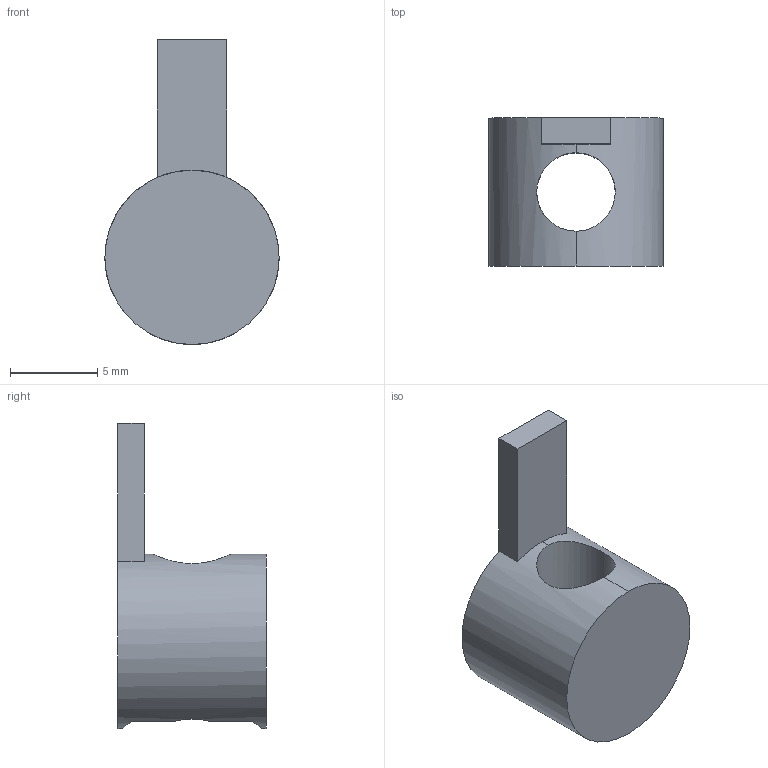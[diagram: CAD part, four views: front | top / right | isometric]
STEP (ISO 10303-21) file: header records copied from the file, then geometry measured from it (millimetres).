
FILE_DESCRIPTION (( 'STEP AP203' ), '1' );
FILE_NAME ('CP-UJT2020.STEP', '2018-03-15T13:01:06', ( '' ), ( '' ), 'SwSTEP 2.0', 'SolidWorks 2013', '' );
FILE_SCHEMA (( 'CONFIG_CONTROL_DESIGN' ));
Length unit declared in the file: millimetre
Products named in the file (1): CP-UJT2020
Bounding box: 10 x 8.5 x 17.5 mm (x, y, z)
Volume: 554.6 mm3; surface area: 609.4 mm2
Topology: 1 solids, 1 shells, 14 faces, 42 edges, 28 vertices
Faces by surface type: plane 8, cylinder 6
Entity records: 643 total; most frequent: CARTESIAN_POINT 195, ORIENTED_EDGE 84, DIRECTION 70, EDGE_CURVE 42, VERTEX_POINT 28, AXIS2_PLACEMENT_3D 25, VECTOR 20, LINE 20
